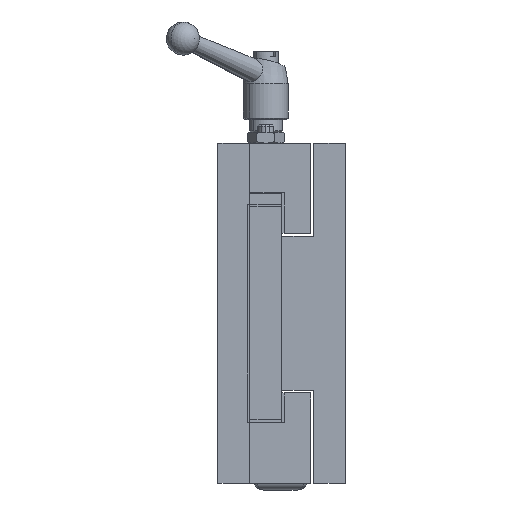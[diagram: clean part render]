
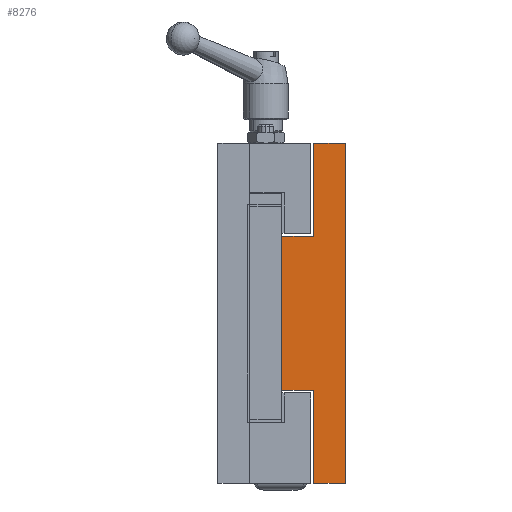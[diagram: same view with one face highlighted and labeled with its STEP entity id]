
A CAD part, left-side view. The second image highlights one B-rep face of the part: STEP entity #8276.
In plain terms, the highlighted planar face has unit normal (-1, 0, 0).
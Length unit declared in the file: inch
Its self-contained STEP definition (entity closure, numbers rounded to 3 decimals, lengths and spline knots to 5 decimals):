
#988 = EDGE_LOOP ( 'NONE', ( #3107, #3110, #3111, #3112, #3113, #3114, #3116, #3117 ) ) ;
#1117 = CARTESIAN_POINT ( 'NONE',  ( 0., 0.75, -0.90625 ) ) ;
#1123 = CARTESIAN_POINT ( 'NONE',  ( 0., 0.75, 0.90625 ) ) ;
#1125 = CARTESIAN_POINT ( 'NONE',  ( 0., 0., 2. ) ) ;
#1129 = CARTESIAN_POINT ( 'NONE',  ( 0., 0.375, -0.90625 ) ) ;
#1132 = CARTESIAN_POINT ( 'NONE',  ( 0., 0.375, 2. ) ) ;
#1133 = CARTESIAN_POINT ( 'NONE',  ( 0., 0.375, -2. ) ) ;
#1137 = CARTESIAN_POINT ( 'NONE',  ( 0., 0.375, 0.90625 ) ) ;
#1737 = AXIS2_PLACEMENT_3D ( 'NONE', #6006, #6012, #6013 ) ;
#2088 = VECTOR ( 'NONE', #6850, 39.37008 ) ;
#2090 = VECTOR ( 'NONE', #6847, 39.37008 ) ;
#2091 = VECTOR ( 'NONE', #6845, 39.37008 ) ;
#2092 = VECTOR ( 'NONE', #6841, 39.37008 ) ;
#2093 = VECTOR ( 'NONE', #6843, 39.37008 ) ;
#2094 = VECTOR ( 'NONE', #6835, 39.37008 ) ;
#2100 = VECTOR ( 'NONE', #6837, 39.37008 ) ;
#2108 = VECTOR ( 'NONE', #9375, 39.37008 ) ;
#3107 = ORIENTED_EDGE ( 'NONE', *, *, #7735, .T. ) ;
#3110 = ORIENTED_EDGE ( 'NONE', *, *, #7736, .T. ) ;
#3111 = ORIENTED_EDGE ( 'NONE', *, *, #7737, .F. ) ;
#3112 = ORIENTED_EDGE ( 'NONE', *, *, #7738, .F. ) ;
#3113 = ORIENTED_EDGE ( 'NONE', *, *, #7739, .F. ) ;
#3114 = ORIENTED_EDGE ( 'NONE', *, *, #7740, .T. ) ;
#3116 = ORIENTED_EDGE ( 'NONE', *, *, #7741, .T. ) ;
#3117 = ORIENTED_EDGE ( 'NONE', *, *, #7725, .F. ) ;
#3565 = CARTESIAN_POINT ( 'NONE',  ( 0., 0., -2. ) ) ;
#4102 = VERTEX_POINT ( 'NONE', #3565 ) ;
#4217 = VERTEX_POINT ( 'NONE', #1117 ) ;
#4222 = VERTEX_POINT ( 'NONE', #1123 ) ;
#4224 = VERTEX_POINT ( 'NONE', #1125 ) ;
#4227 = VERTEX_POINT ( 'NONE', #1129 ) ;
#4230 = VERTEX_POINT ( 'NONE', #1132 ) ;
#4231 = VERTEX_POINT ( 'NONE', #1133 ) ;
#4235 = VERTEX_POINT ( 'NONE', #1137 ) ;
#6004 = PLANE ( 'NONE',  #1737 ) ;
#6006 = CARTESIAN_POINT ( 'NONE',  ( 0., 0., 2. ) ) ;
#6010 = FACE_OUTER_BOUND ( 'NONE', #988, .T. ) ;
#6012 = DIRECTION ( 'NONE',  ( 1., 0., 0. ) ) ;
#6013 = DIRECTION ( 'NONE',  ( 0., 0., -1. ) ) ;
#6832 = LINE ( 'NONE', #6834, #2094 ) ;
#6833 = LINE ( 'NONE', #6844, #2091 ) ;
#6834 = CARTESIAN_POINT ( 'NONE',  ( 0., 0.75, -0.90625 ) ) ;
#6835 = DIRECTION ( 'NONE',  ( 0., -1., 0. ) ) ;
#6836 = CARTESIAN_POINT ( 'NONE',  ( 0., 0.375, -2. ) ) ;
#6837 = DIRECTION ( 'NONE',  ( 0., 0., -1. ) ) ;
#6838 = LINE ( 'NONE', #6840, #2092 ) ;
#6839 = LINE ( 'NONE', #6846, #2090 ) ;
#6840 = CARTESIAN_POINT ( 'NONE',  ( 0., 0.75, -2. ) ) ;
#6841 = DIRECTION ( 'NONE',  ( 0., 1., 0. ) ) ;
#6842 = CARTESIAN_POINT ( 'NONE',  ( 0., 0., 2. ) ) ;
#6843 = DIRECTION ( 'NONE',  ( 0., 0., -1. ) ) ;
#6844 = CARTESIAN_POINT ( 'NONE',  ( 0., 0.75, 2. ) ) ;
#6845 = DIRECTION ( 'NONE',  ( 0., -1., 0. ) ) ;
#6846 = CARTESIAN_POINT ( 'NONE',  ( 0., 0.375, 2. ) ) ;
#6847 = DIRECTION ( 'NONE',  ( 0., 0., -1. ) ) ;
#6848 = LINE ( 'NONE', #6849, #2088 ) ;
#6849 = CARTESIAN_POINT ( 'NONE',  ( 0., 0.75, 0.90625 ) ) ;
#6850 = DIRECTION ( 'NONE',  ( 0., 1., 0. ) ) ;
#7725 = EDGE_CURVE ( 'NONE', #4217, #4222, #9365, .T. ) ;
#7735 = EDGE_CURVE ( 'NONE', #4217, #4227, #6832, .T. ) ;
#7736 = EDGE_CURVE ( 'NONE', #4227, #4231, #9381, .T. ) ;
#7737 = EDGE_CURVE ( 'NONE', #4102, #4231, #6838, .T. ) ;
#7738 = EDGE_CURVE ( 'NONE', #4224, #4102, #9384, .T. ) ;
#7739 = EDGE_CURVE ( 'NONE', #4230, #4224, #6833, .T. ) ;
#7740 = EDGE_CURVE ( 'NONE', #4230, #4235, #6839, .T. ) ;
#7741 = EDGE_CURVE ( 'NONE', #4235, #4222, #6848, .T. ) ;
#8276 = ADVANCED_FACE ( 'NONE', ( #6010 ), #6004, .F. ) ;
#9365 = LINE ( 'NONE', #9374, #2108 ) ;
#9374 = CARTESIAN_POINT ( 'NONE',  ( 0., 0.75, 2. ) ) ;
#9375 = DIRECTION ( 'NONE',  ( 0., 0., 1. ) ) ;
#9381 = LINE ( 'NONE', #6836, #2100 ) ;
#9384 = LINE ( 'NONE', #6842, #2093 ) ;
